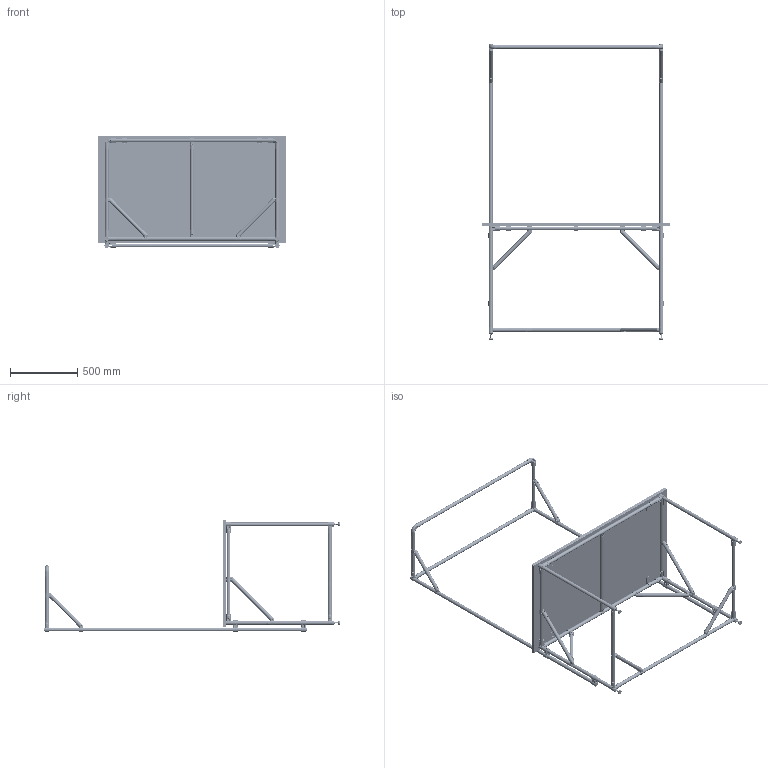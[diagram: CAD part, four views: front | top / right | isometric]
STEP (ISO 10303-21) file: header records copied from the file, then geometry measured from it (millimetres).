
FILE_DESCRIPTION (( 'STEP AP214' ), '1' );
FILE_NAME ('RSI-WSF-E-1400x800.STEP', '2026-09-02T10:25:16', ( 'Àëåêñåé' ), ( '' ), 'SwSTEP 2.0', 'SolidWorks 2022', '' );
FILE_SCHEMA (( 'AUTOMOTIVE_DESIGN' ));
Length unit declared in the file: millimetre
Products named in the file (19): PR-28X2-A_L=665 мм; RSI-DF1B; RSI-WSF-1400x800_Пример использования; PR-28X2-A_L=1200 мм; RSI-DF17B; RSI-DF8B; Столешница 1400х800; f-110-s; PR-28X2-A_L=1950 мм; RSI-WSF-E-1400x800; PR-28X2-A_L=400 мм; RSI-DF2B; RSI-FH1200LV2; PR-28X2-A_L=800 мм; RSI-DF15B; PR-28X2-A_L=350 мм; RSI-DF14B; PR-28X2-A_L=300 мм; PR-28X2-A_L=390 мм
Assembly tree (74 placements, depth 3):
  RSI-WSF-E-1400x800
    PR-28X2-A_L=1950 мм  x2
    RSI-DF2B  x2
    f-110-s  x4
    PR-28X2-A_L=1200 мм  x2
    PR-28X2-A_L=390 мм  x2
    RSI-DF14B  x4
    PR-28X2-A_L=300 мм  x2
    RSI-WSF-1400x800_Пример использования
      PR-28X2-A_L=1200 мм  x3
      PR-28X2-A_L=800 мм  x4
      PR-28X2-A_L=665 мм  x5
      PR-28X2-A_L=400 мм  x2
      RSI-DF14B  x12
      RSI-DF15B  x4
      RSI-DF2B  x6
      Столешница 1400х800
      RSI-DF1B  x4
      PR-28X2-A_L=350 мм  x4
      RSI-FH1200LV2  x4
    RSI-DF8B  x4
    RSI-DF17B  x2
Bounding box: 1400 x 2203.36 x 835.89 mm (x, y, z)
Volume: 32204623.8 mm3; surface area: 6549018.4 mm2
Topology: 215 solids, 231 shells, 13430 faces, 34768 edges, 22496 vertices
Faces by surface type: cylinder 5320, plane 4898, bspline 1904, cone 716, torus 544, sphere 48
Full cylindrical faces by diameter (mm): 10 x4, 17 x4, 21 x4, 24 x26, 28 x30
Entity records: 149773 total; most frequent: CARTESIAN_POINT 91329, ORIENTED_EDGE 11744, DIRECTION 8721, EDGE_CURVE 5872, VERTEX_POINT 3817, AXIS2_PLACEMENT_3D 3243, EDGE_LOOP 2483, B_SPLINE_CURVE_WITH_KNOTS 2349
